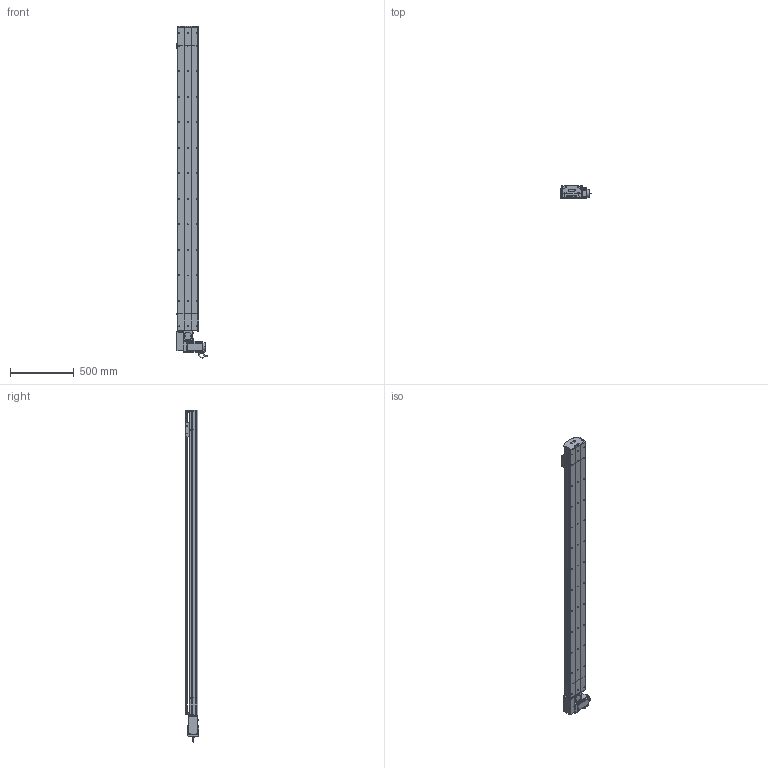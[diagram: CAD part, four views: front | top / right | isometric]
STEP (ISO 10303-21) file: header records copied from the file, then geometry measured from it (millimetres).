
FILE_DESCRIPTION (( 'STEP AP214' ), '1' );
FILE_NAME ('D17 TBN RH S2100.STEP', '2010-06-30T11:26:47', ( 'Christophe Gaillard' ), ( 'SGA' ), 'SwSTEP 2.0', 'SolidWorks 2010', '' );
FILE_SCHEMA (( 'AUTOMOTIVE_DESIGN' ));
Length unit declared in the file: millimetre
Products named in the file (40): plaque de  bout tail D17B_Default; corp D17B 2100_Default; Couroie tail D17B_Default; Renvoi RH_Default; Tail D17B+100_Default; corp tail D17B+100_Default; tete d''axe poulie D17B; Conecteur_Default; Conecteur2_Default; couvercle D17B course L2100_Default; Head RH D17B_Default; corpl head D17 _Default; couvercle D17B head_Default; vis M5 L70_Default; Rail D17B; vis M5 L16_Default; Plaque racord D17_Default; Vis M5 L16-2_Default; plaque de  bout head D17B RH_Default; D17 TBN RH S2100; course 2100 D17B_Default; Couroie+ rail D17 Course 2100 ; Arbre+rail head D17B; cache D17_Default; vis M5 L5_Default; poulie head_Default; couvercle D17B_Default; vis M5 L8 90°_Default; vis M5 L12_Default; vis M5 L25_Default; avant 90BLDC125A-640; chariot D17 TBN; corps 90BLDC125A-640; codeur 90BLDC125-640; cache arbre D17_Default; guide D17; poulie tail_Default; couroie head D17_Default; Chariot D17 TBN; Moteur motionking 90BLDC125A-640
Assembly tree (66 placements, depth 4):
  D17 TBN RH S2100
    Tail D17B+100_Default
      Rail D17B
      vis M5 L25_Default  x2
      vis M5 L12_Default  x4
      tete d''axe poulie D17B
      Couroie tail D17B_Default
      vis M5 L8 90°_Default  x2
      couvercle D17B_Default
      corp tail D17B+100_Default
      plaque de  bout tail D17B_Default
      poulie tail_Default
    chariot D17 TBN
      Chariot D17 TBN
      guide D17  x2
    Head RH D17B_Default
      cache D17_Default  x2
      couroie head D17_Default
      poulie head_Default
      vis M5 L12_Default  x8
      cache arbre D17_Default
      vis M5 L70_Default  x4
      vis M5 L16_Default  x2
      vis M5 L25_Default  x2
      vis M5 L5_Default  x4
      Renvoi RH_Default
      Vis M5 L16-2_Default  x4
      couvercle D17B head_Default
      Arbre+rail head D17B
      Moteur motionking 90BLDC125A-640
        codeur 90BLDC125-640
        corps 90BLDC125A-640
        avant 90BLDC125A-640
        Conecteur_Default
        Conecteur2_Default
      Plaque racord D17_Default
      corpl head D17 _Default
      plaque de  bout head D17B RH_Default
    course 2100 D17B_Default
      corp D17B 2100_Default
      Couroie+ rail D17 Course 2100 
      couvercle D17B course L2100_Default
Bounding box: 245.2 x 105.65 x 2600.95 mm (x, y, z)
Volume: 14661359.1 mm3; surface area: 4234864.7 mm2
Topology: 89 solids, 89 shells, 2607 faces, 6667 edges, 4298 vertices
Faces by surface type: plane 1537, cylinder 773, bspline 136, cone 80, torus 77, sphere 4
Entity records: 84597 total; most frequent: CARTESIAN_POINT 25169, ORIENTED_EDGE 10506, DIRECTION 9918, EDGE_CURVE 5253, LINE 3476, VECTOR 3476, VERTEX_POINT 3442, AXIS2_PLACEMENT_3D 3221
